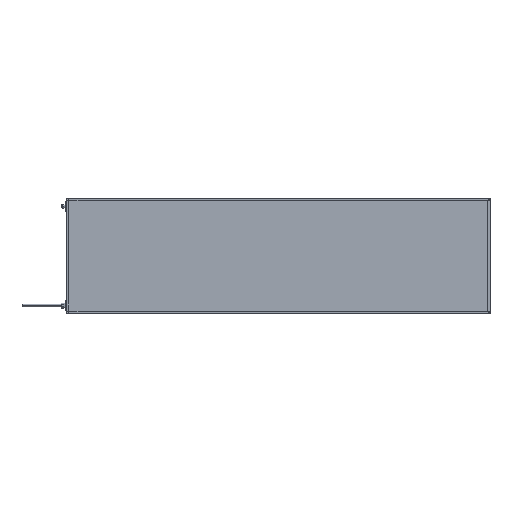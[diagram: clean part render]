
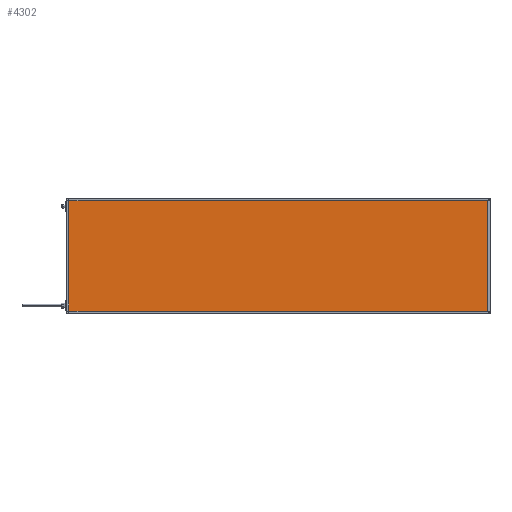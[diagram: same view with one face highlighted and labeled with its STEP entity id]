
A CAD part, top view. The second image highlights one B-rep face of the part: STEP entity #4302.
In plain terms, the highlighted planar face has unit normal (0, 0, 1).
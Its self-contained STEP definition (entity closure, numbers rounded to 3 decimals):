
#238 = LINE ( 'NONE', #6899, #10793 ) ;
#515 = VERTEX_POINT ( 'NONE', #1377 ) ;
#544 = DIRECTION ( 'NONE',  ( 1., 0., 0. ) ) ;
#608 = DIRECTION ( 'NONE',  ( -1., 0., 0. ) ) ;
#1377 = CARTESIAN_POINT ( 'NONE',  ( 1496., 396., 41.85 ) ) ;
#1526 = VERTEX_POINT ( 'NONE', #3020 ) ;
#1906 = LINE ( 'NONE', #7464, #5146 ) ;
#3020 = CARTESIAN_POINT ( 'NONE',  ( 1496., 4., 41.85 ) ) ;
#3083 = CARTESIAN_POINT ( 'NONE',  ( 0., 396., 41.85 ) ) ;
#4066 = DIRECTION ( 'NONE',  ( 0., -1., 0. ) ) ;
#4213 = ORIENTED_EDGE ( 'NONE', *, *, #12103, .T. ) ;
#4302 = ADVANCED_FACE ( 'NONE', ( #17614 ), #17710, .F. ) ;
#5106 = VECTOR ( 'NONE', #14303, 1000. ) ;
#5146 = VECTOR ( 'NONE', #544, 1000. ) ;
#5816 = VECTOR ( 'NONE', #608, 1000. ) ;
#5866 = ORIENTED_EDGE ( 'NONE', *, *, #15212, .T. ) ;
#5891 = LINE ( 'NONE', #3083, #5816 ) ;
#6566 = DIRECTION ( 'NONE',  ( 0., 0., -1. ) ) ;
#6899 = CARTESIAN_POINT ( 'NONE',  ( 4., 0., 41.85 ) ) ;
#7020 = LINE ( 'NONE', #9394, #5106 ) ;
#7083 = AXIS2_PLACEMENT_3D ( 'NONE', #7932, #6566, #12135 ) ;
#7464 = CARTESIAN_POINT ( 'NONE',  ( 0., 4., 41.85 ) ) ;
#7932 = CARTESIAN_POINT ( 'NONE',  ( 0., 0., 41.85 ) ) ;
#7976 = VERTEX_POINT ( 'NONE', #8209 ) ;
#8033 = EDGE_CURVE ( 'NONE', #1526, #515, #7020, .T. ) ;
#8209 = CARTESIAN_POINT ( 'NONE',  ( 4., 4., 41.85 ) ) ;
#9394 = CARTESIAN_POINT ( 'NONE',  ( 1496., 0., 41.85 ) ) ;
#9418 = ORIENTED_EDGE ( 'NONE', *, *, #8033, .T. ) ;
#10767 = EDGE_LOOP ( 'NONE', ( #9418, #5866, #12775, #4213 ) ) ;
#10793 = VECTOR ( 'NONE', #4066, 1000. ) ;
#12103 = EDGE_CURVE ( 'NONE', #7976, #1526, #1906, .T. ) ;
#12135 = DIRECTION ( 'NONE',  ( -1., 0., 0. ) ) ;
#12775 = ORIENTED_EDGE ( 'NONE', *, *, #16360, .T. ) ;
#14303 = DIRECTION ( 'NONE',  ( 0., 1., 0. ) ) ;
#15212 = EDGE_CURVE ( 'NONE', #515, #17073, #5891, .T. ) ;
#16360 = EDGE_CURVE ( 'NONE', #17073, #7976, #238, .T. ) ;
#16444 = CARTESIAN_POINT ( 'NONE',  ( 4., 396., 41.85 ) ) ;
#17073 = VERTEX_POINT ( 'NONE', #16444 ) ;
#17614 = FACE_OUTER_BOUND ( 'NONE', #10767, .T. ) ;
#17710 = PLANE ( 'NONE',  #7083 ) ;
